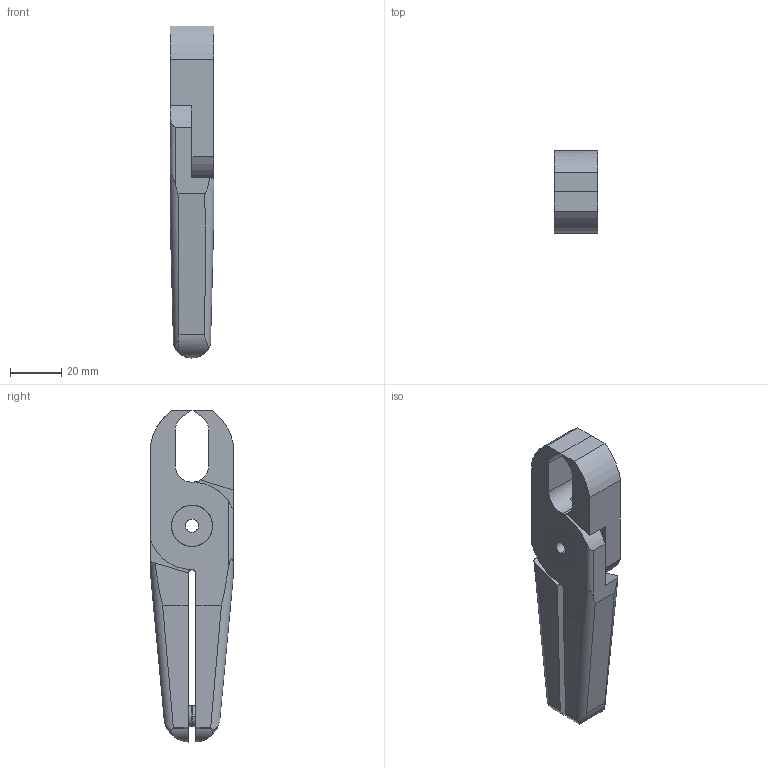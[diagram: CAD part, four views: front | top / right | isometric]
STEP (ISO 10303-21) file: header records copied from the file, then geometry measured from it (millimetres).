
FILE_DESCRIPTION (( 'STEP AP214' ), '1' );
FILE_NAME ('0615.STEP', '2012-03-27T19:41:52', ( 'User' ), ( 'EMI' ), 'SwSTEP 2.0', 'SolidWorks 2009', '' );
FILE_SCHEMA (( 'AUTOMOTIVE_DESIGN' ));
Length unit declared in the file: millimetre
Products named in the file (1): 0615
Bounding box: 16.9 x 32 x 129 mm (x, y, z)
Volume: 48539.5 mm3; surface area: 18182.3 mm2
Topology: 3 solids, 3 shells, 85 faces, 229 edges, 154 vertices
Faces by surface type: cylinder 46, plane 36, bspline 3
Entity records: 3624 total; most frequent: CARTESIAN_POINT 1558, ORIENTED_EDGE 458, DIRECTION 375, EDGE_CURVE 229, VERTEX_POINT 154, AXIS2_PLACEMENT_3D 136, VECTOR 103, LINE 103
